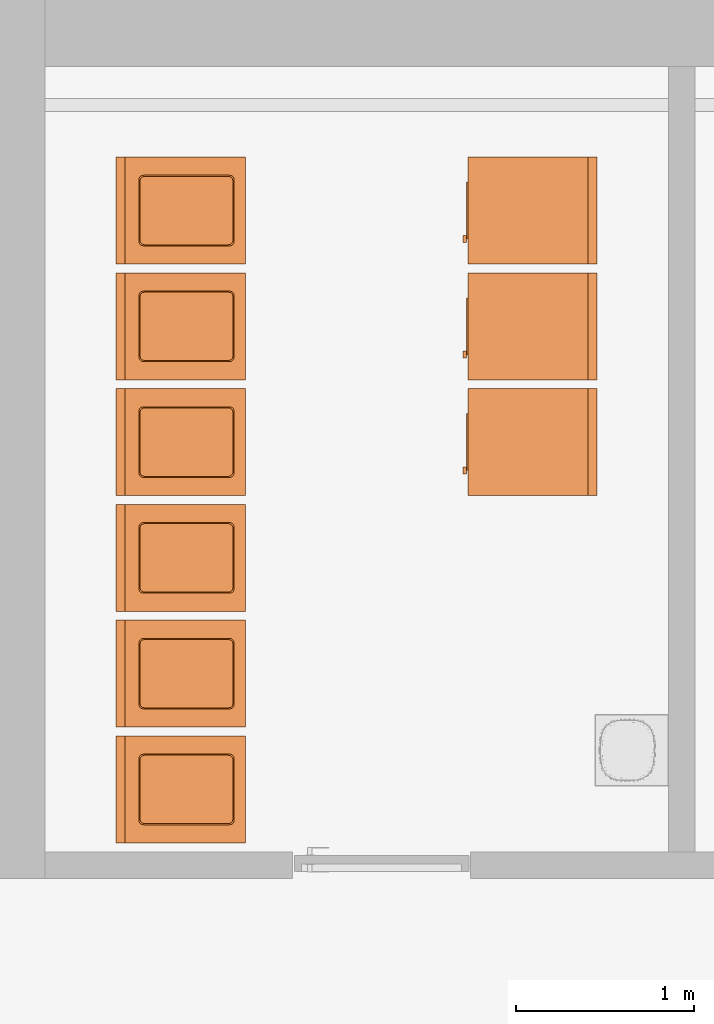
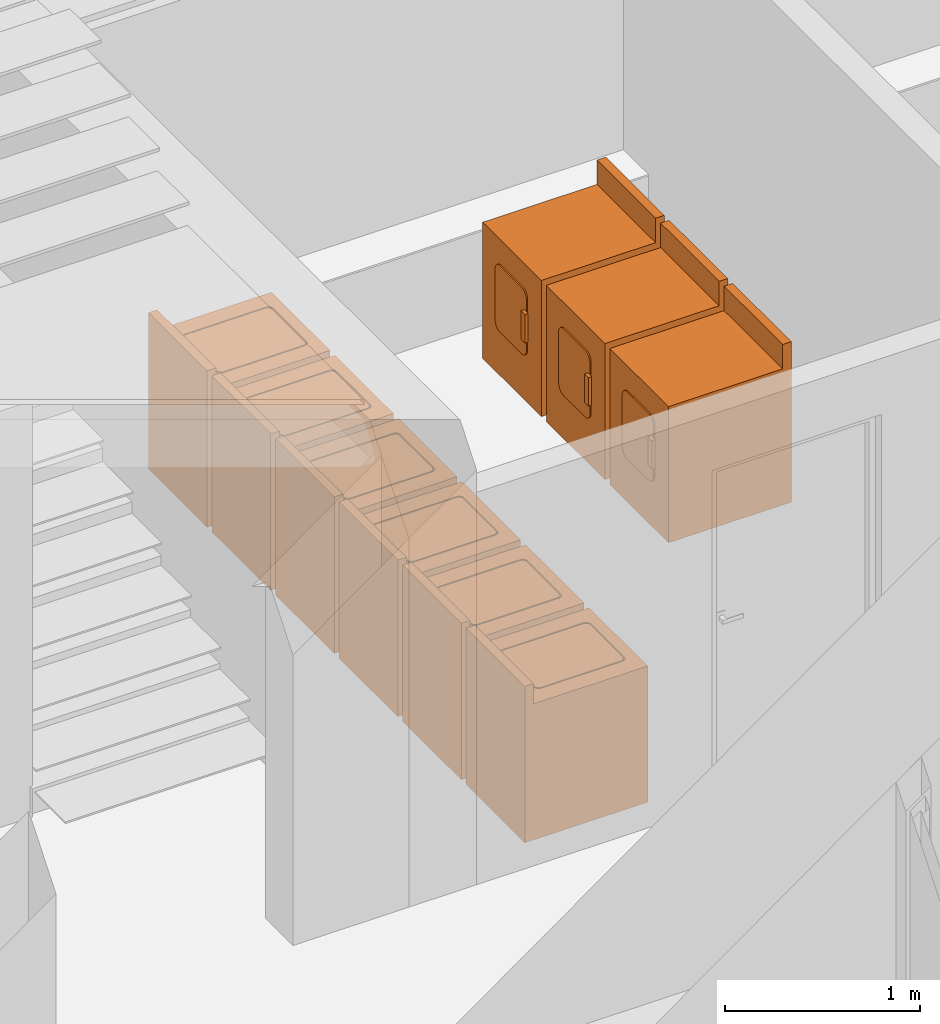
# One storey, part 22 of 23: 9 proxies.
"""IFC2X3 building model written with IfcOpenShell, lengths in millimetres."""

from ifc_helpers import new_model, entity, si_unit, converted_unit, derived_unit, direction, frame, frame_2d, origin, origin_2d_with_axis, place, context, subcontext, project, spatial, polyline, circle_curve, parameter, trimmed, segment, composite_curve, rectangle, outline, extrude, faceted_brep, source, transform, mapped, material, type_object, type_shapes, element, save


model = new_model("IFC2X3")

# Units and contexts
model_context = context("Model", 3, precision=0.01, world=origin(), true_north=direction((6.12303176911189e-17, 1.0)))
body_context = subcontext(model_context, "Body", "Model", "MODEL_VIEW")
ifc_project = project(units=[si_unit("LENGTHUNIT", "METRE", prefix="MILLI"), si_unit("AREAUNIT", "SQUARE_METRE"), si_unit("VOLUMEUNIT", "CUBIC_METRE"), converted_unit("PLANEANGLEUNIT", "DEGREE", entity("IfcRatioMeasure", 0.0174532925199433), si_unit("PLANEANGLEUNIT", "RADIAN"), dimensions=[0, 0, 0, 0, 0, 0, 0]), si_unit("MASSUNIT", "GRAM", prefix="KILO"), derived_unit("MASSDENSITYUNIT", [(si_unit("MASSUNIT", "GRAM", prefix="KILO"), 1), (si_unit("LENGTHUNIT", "METRE"), -3)]), si_unit("TIMEUNIT", "SECOND"), si_unit("FREQUENCYUNIT", "HERTZ"), si_unit("THERMODYNAMICTEMPERATUREUNIT", "DEGREE_CELSIUS"), derived_unit("THERMALTRANSMITTANCEUNIT", [(si_unit("MASSUNIT", "GRAM", prefix="KILO"), 1), (si_unit("THERMODYNAMICTEMPERATUREUNIT", "KELVIN"), -1), (si_unit("TIMEUNIT", "SECOND"), -3)]), derived_unit("VOLUMETRICFLOWRATEUNIT", [(si_unit("LENGTHUNIT", "METRE"), 3), (si_unit("TIMEUNIT", "SECOND"), -1)]), si_unit("ELECTRICCURRENTUNIT", "AMPERE"), si_unit("ELECTRICVOLTAGEUNIT", "VOLT"), si_unit("POWERUNIT", "WATT"), si_unit("FORCEUNIT", "NEWTON", prefix="KILO"), si_unit("ILLUMINANCEUNIT", "LUX"), si_unit("LUMINOUSFLUXUNIT", "LUMEN"), si_unit("LUMINOUSINTENSITYUNIT", "CANDELA"), derived_unit("USERDEFINED", [(si_unit("MASSUNIT", "GRAM", prefix="KILO"), -1), (si_unit("LENGTHUNIT", "METRE"), -2), (si_unit("TIMEUNIT", "SECOND"), 3), (si_unit("LUMINOUSFLUXUNIT", "LUMEN"), 1)]), derived_unit("LINEARVELOCITYUNIT", [(si_unit("LENGTHUNIT", "METRE"), 1), (si_unit("TIMEUNIT", "SECOND"), -1)]), si_unit("PRESSUREUNIT", "PASCAL"), derived_unit("USERDEFINED", [(si_unit("LENGTHUNIT", "METRE"), -2), (si_unit("MASSUNIT", "GRAM", prefix="KILO"), 1), (si_unit("TIMEUNIT", "SECOND"), -2)]), derived_unit("LINEARFORCEUNIT", [(si_unit("MASSUNIT", "GRAM", prefix="KILO"), 1), (si_unit("LENGTHUNIT", "METRE"), 1), (si_unit("TIMEUNIT", "SECOND"), -2), (si_unit("LENGTHUNIT", "METRE"), -1)]), derived_unit("PLANARFORCEUNIT", [(si_unit("MASSUNIT", "GRAM", prefix="KILO"), 1), (si_unit("LENGTHUNIT", "METRE"), 1), (si_unit("TIMEUNIT", "SECOND"), -2), (si_unit("LENGTHUNIT", "METRE"), -2)])], contexts=[model_context])

# Site, building, storey, space
site_placement = place(None, origin())
site = spatial("IfcSite", under=ifc_project, at=site_placement, Name="Default", CompositionType="ELEMENT")
building_placement = place(site_placement, origin())
building = spatial("IfcBuilding", under=site, at=building_placement, Name="SMA ARH", CompositionType="ELEMENT")
storey_placement = place(building_placement, frame((0.0, 0.0, -2800.0)))
storey = spatial("IfcBuildingStorey", under=building, at=storey_placement, Name="0 Sokkel", CompositionType="ELEMENT", Elevation=-2800.0)
space_placement = place(storey_placement, origin())
space = spatial("IfcSpace", under=storey, at=space_placement, Name="0-16", CompositionType="ELEMENT", InteriorOrExteriorSpace="INTERNAL")

# Proxies
ifc_material_1 = material(Name="Metal - Paint Finish - Ivory, Matte")
building_element_proxy_type_1 = type_object("IfcBuildingElementProxyType", Name="M_Washer:595x745x850", PredefinedType="NOTDEFINED", material=ifc_material_1)
shared_shape_1 = source(origin(), body_context, "Body", "Brep", [
    faceted_brep([(492.05000000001, 567.249999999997, 824.599999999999), (492.05000000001, 95.2499999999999, 824.599999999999), (490.085303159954, 87.91765157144, 824.599999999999), (488.647045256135, 82.5499999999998, 824.599999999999), (483.998522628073, 77.9014773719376, 824.599999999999), (479.350000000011, 73.252954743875, 824.599999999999), (473.0, 71.5514773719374, 824.599999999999), (466.65000000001, 69.8499999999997, 824.599999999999), (133.35, 69.8499999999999, 824.599999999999), (126.017651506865, 71.8146968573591, 824.599999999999), (120.65, 73.2529547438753, 824.599999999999), (116.001477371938, 77.9014773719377, 824.599999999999), (111.352954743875, 82.5500000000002, 824.599999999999), (109.651477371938, 88.9000000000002, 824.599999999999), (107.95, 95.2500000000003, 824.599999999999), (107.95, 567.249999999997, 824.599999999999), (109.914696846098, 574.582348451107, 824.599999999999), (111.352954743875, 579.949999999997, 824.599999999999), (116.001477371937, 584.598522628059, 824.599999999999), (120.65, 589.247045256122, 824.599999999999), (127.0, 590.948522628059, 824.599999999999), (133.35, 592.649999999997, 824.599999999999), (466.65000000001, 592.649999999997, 824.599999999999), (473.982348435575, 590.685303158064, 824.599999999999), (479.35000000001, 589.247045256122, 824.599999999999), (483.998522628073, 584.598522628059, 824.599999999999), (488.647045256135, 579.949999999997, 824.599999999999), (490.348522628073, 573.599999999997, 824.599999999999), (492.05000000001, 95.2499999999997, 850.0), (492.05000000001, 567.249999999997, 850.0), (490.085303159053, 574.582348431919, 850.0), (488.647045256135, 579.949999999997, 850.0), (483.998522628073, 584.598522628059, 850.0), (479.35000000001, 589.247045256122, 850.0), (473.0, 590.948522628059, 850.0), (466.65000000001, 592.649999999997, 850.0), (133.35, 592.649999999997, 850.0), (127.0, 590.948522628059, 850.0), (120.65, 589.247045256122, 850.0), (116.001477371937, 584.598522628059, 850.0), (111.352954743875, 579.949999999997, 850.0), (109.651477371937, 573.599999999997, 850.0), (107.95, 567.249999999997, 850.0), (107.95, 95.2500000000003, 850.0), (109.651477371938, 88.9000000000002, 850.0), (111.352954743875, 82.5500000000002, 850.0), (116.001477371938, 77.9014773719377, 850.0), (120.65, 73.2529547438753, 850.0), (127.0, 71.5514773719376, 850.0), (133.35, 69.8499999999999, 850.0), (466.65000000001, 69.8499999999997, 850.0), (473.982348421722, 71.8146968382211, 850.0), (479.350000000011, 73.252954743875, 850.0), (483.998522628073, 77.9014773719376, 850.0), (488.647045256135, 82.5499999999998, 850.0), (490.348522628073, 88.9, 850.0)], [[[0, 1, 2, 3, 4, 5, 6, 7, 8, 9, 10, 11, 12, 13, 14, 15, 16, 17, 18, 19, 20, 21, 22, 23, 24, 25, 26, 27]], [[28, 29, 30, 31, 32, 33, 34, 35, 36, 37, 38, 39, 40, 41, 42, 43, 44, 45, 46, 47, 48, 49, 50, 51, 52, 53, 54, 55]], [[40, 17, 16, 15, 42, 41]], [[19, 18, 17, 40, 39, 38]], [[21, 20, 19, 38, 37, 36]], [[22, 21, 36, 35]], [[33, 24, 23, 22, 35, 34]], [[26, 25, 24, 33, 32, 31]], [[26, 31, 30, 29, 0, 27]], [[1, 0, 29, 28]], [[54, 3, 2, 1, 28, 55]], [[5, 4, 3, 54, 53, 52]], [[5, 52, 51, 50, 7, 6]], [[8, 7, 50, 49]], [[47, 10, 9, 8, 49, 48]], [[46, 45, 12, 11, 10, 47]], [[43, 14, 13, 12, 45, 44]], [[15, 14, 43, 42]]]),
    faceted_brep([(0.0, 675.2, 850.0), (127.0, 598.818630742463, 850.0), (473.0, 598.818630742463, 850.0), (600.0, 675.2, 850.0), (120.649999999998, 597.117153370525, 850.0), (114.299999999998, 595.415675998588, 850.0), (109.651477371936, 590.767153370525, 850.0), (105.002954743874, 586.118630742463, 850.0), (103.564696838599, 580.750979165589, 850.0), (101.599999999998, 573.418630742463, 850.0), (0.0, 0.0, 850.0), (101.599999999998, 88.9000000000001, 850.0), (103.301477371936, 82.5500000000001, 850.0), (105.002954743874, 76.1999999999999, 850.0), (109.651477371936, 71.5514773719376, 850.0), (114.299999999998, 66.9029547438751, 850.0), (119.667651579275, 65.4646968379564, 850.0), (127.0, 63.4999999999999, 850.0), (473.0, 63.4999999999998, 850.0), (600.0, 0.0, 850.0), (498.399999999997, 573.418630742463, 850.0), (498.399999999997, 88.8999999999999, 850.0), (496.435303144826, 81.5676515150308, 850.0), (494.997045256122, 76.1999999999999, 850.0), (490.348522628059, 71.5514773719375, 850.0), (479.349999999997, 65.2014773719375, 850.0), (485.699999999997, 66.9029547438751, 850.0), (480.33234843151, 596.853933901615, 850.0), (485.699999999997, 595.415675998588, 850.0), (490.348522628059, 590.767153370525, 850.0), (494.997045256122, 586.118630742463, 850.0), (496.698522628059, 579.768630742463, 850.0), (600.0, 0.0, 0.0), (0.0, 0.0, 0.0), (0.0, 726.0, 0.0), (600.0, 726.0, 0.0), (0.0, 675.2, 977.0), (0.0, 726.0, 977.0), (600.0, 726.0, 977.0), (600.0, 675.2, 977.0), (127.0, 598.818630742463, 799.199999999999), (119.667651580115, 596.853933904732, 799.199999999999), (114.299999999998, 595.415675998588, 799.199999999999), (109.651477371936, 590.767153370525, 799.199999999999), (105.002954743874, 586.118630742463, 799.199999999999), (103.301477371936, 579.768630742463, 799.199999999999), (101.599999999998, 573.418630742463, 799.199999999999), (101.599999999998, 88.9, 799.199999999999), (103.564696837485, 81.5676515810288, 799.199999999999), (105.002954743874, 76.1999999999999, 799.199999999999), (109.651477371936, 71.5514773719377, 799.199999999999), (114.299999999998, 66.9029547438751, 799.199999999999), (120.649999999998, 65.2014773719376, 799.199999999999), (127.0, 63.4999999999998, 799.199999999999), (473.0, 63.4999999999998, 799.199999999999), (480.332349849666, 65.4646972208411, 799.199999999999), (485.699999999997, 66.902954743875, 799.199999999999), (490.348522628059, 71.5514773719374, 799.199999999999), (494.997045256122, 76.1999999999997, 799.199999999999), (496.698522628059, 82.5499999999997, 799.199999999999), (498.399999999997, 88.8999999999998, 799.199999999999), (498.399999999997, 573.418630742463, 799.199999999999), (496.435303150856, 580.750979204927, 799.199999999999), (494.997045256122, 586.118630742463, 799.199999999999), (490.348522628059, 590.767153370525, 799.199999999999), (485.699999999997, 595.415675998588, 799.199999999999), (479.349999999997, 597.117153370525, 799.199999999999), (473.0, 598.818630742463, 799.199999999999)], [[[0, 1, 2]], [[2, 3, 0]], [[0, 4, 1]], [[0, 5, 4]], [[0, 6, 5]], [[0, 7, 6]], [[0, 8, 7]], [[0, 9, 8]], [[0, 10, 9]], [[11, 9, 10]], [[10, 12, 11]], [[10, 13, 12]], [[10, 14, 13]], [[10, 15, 14]], [[10, 16, 15]], [[10, 17, 16]], [[17, 10, 18]], [[19, 18, 10]], [[3, 20, 19]], [[21, 19, 20]], [[19, 21, 22]], [[19, 22, 23]], [[19, 23, 24]], [[19, 25, 18]], [[19, 26, 25]], [[19, 24, 26]], [[3, 2, 27]], [[3, 27, 28]], [[3, 28, 29]], [[3, 29, 30]], [[3, 30, 31]], [[3, 31, 20]], [[32, 33, 34, 35]], [[0, 36, 37, 34, 33, 10]], [[19, 10, 33, 32]], [[3, 19, 32, 35, 38, 39]], [[37, 38, 35, 34]], [[36, 0, 3, 39]], [[37, 36, 39, 38]], [[40, 41, 42, 43, 44, 45, 46, 47, 48, 49, 50, 51, 52, 53, 54, 55, 56, 57, 58, 59, 60, 61, 62, 63, 64, 65, 66, 67]], [[67, 2, 1, 40]], [[42, 41, 40, 1, 4, 5]], [[44, 43, 42, 5, 6, 7]], [[9, 46, 45, 44, 7, 8]], [[46, 9, 11, 47]], [[49, 48, 47, 11, 12, 13]], [[51, 50, 49, 13, 14, 15]], [[17, 53, 52, 51, 15, 16]], [[53, 17, 18, 54]], [[56, 55, 54, 18, 25, 26]], [[58, 57, 56, 26, 24, 23]], [[21, 60, 59, 58, 23, 22]], [[60, 21, 20, 61]], [[63, 62, 61, 20, 31, 30]], [[65, 64, 63, 30, 29, 28]], [[2, 67, 66, 65, 28, 27]]]),
])
type_shapes(building_element_proxy_type_1, [shared_shape_1])
for number, where, z_axis, x_axis, name in (
    (1, (13126.0, 8075.0, 0.0), (0.0, 0.0, 1.0), (0.0, 1.0, 0.0), "M_Washer:595x745x850"),
    (2, (13126.0, 8725.0, 0.0), (0.0, 0.0, 1.0), (0.0, 1.0, 0.0), "M_Washer:595x745x850"),
    (3, (13126.0, 9375.0, 0.0), (0.0, 0.0, 1.0), (0.0, 1.0, 0.0), "M_Washer:595x745x850"),
    (4, (13126.0, 10025.0, 0.0), (0.0, 0.0, 1.0), (0.0, 1.0, 0.0), "M_Washer:595x745x850"),
    (5, (13126.0, 10675.0, 0.0), (0.0, 0.0, 1.0), (0.0, 1.0, 0.0), "M_Washer:595x745x850"),
    (6, (13126.0, 11325.0, 0.0), (0.0, 0.0, 1.0), (0.0, 1.0, 0.0), "M_Washer:595x745x850"),
):
    element("IfcBuildingElementProxy", number, at=place(space_placement, frame(where, z_axis=z_axis, x_axis=x_axis)), inside=space, type_object=building_element_proxy_type_1, material=ifc_material_1, Name=name, ObjectType="M_Washer:595x745x850", context=body_context, shape_type="MappedRepresentation", body=[
        mapped(shared_shape_1, transform((0.0, 0.0, 0.0), scale=1.0)),
    ])
ifc_material_2 = material(Name="Metal - Paint Finish - Ivory, Glossy")
building_element_proxy_type_2 = type_object("IfcBuildingElementProxyType", Name="M_Dryer:595x745x850", PredefinedType="NOTDEFINED", material=ifc_material_2)
shared_shape_2 = source(origin(), body_context, "Body", "SweptSolid", [
    extrude(rectangle(XDim=40.0, YDim=19.9, at=origin_2d_with_axis()), frame((177.490064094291, 20.7089962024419, 395.223707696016), z_axis=(0.0, 0.0, 1.0), x_axis=(-1.0, 0.0, 0.0)), (0.0, 0.0, 1.0), 177.8),
    extrude(outline(composite_curve([segment(trimmed(circle_curve(frame_2d((-158.6, -110.0), x_axis=(1.0, 0.0)), 50.0000000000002), [parameter(180.0)], [parameter(270.0)], True, "PARAMETER"), True, "CONTINUOUS"), segment(polyline([(-158.600000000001, -160.0), (158.600000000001, -160.0)]), True, "CONTINUOUS"), segment(trimmed(circle_curve(frame_2d((158.6, -110.0), x_axis=(1.0, 0.0)), 50.0), [parameter(270.0)], [parameter(4.07110999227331e-13)], True, "PARAMETER"), True, "CONTINUOUS"), segment(polyline([(208.6, -110.0), (208.6, 110.0)]), True, "CONTINUOUS"), segment(trimmed(circle_curve(frame_2d((158.6, 110.0), x_axis=(1.0, 0.0)), 50.0), [parameter(4.07110999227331e-13)], [parameter(90.0000000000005)], True, "PARAMETER"), True, "CONTINUOUS"), segment(polyline([(158.6, 160.0), (-158.600000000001, 160.0)]), True, "CONTINUOUS"), segment(trimmed(circle_curve(frame_2d((-158.600000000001, 110.0), x_axis=(1.0, 0.0)), 50.0), [parameter(90.0000000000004)], [parameter(180.0)], True, "PARAMETER"), True, "CONTINUOUS"), segment(polyline([(-208.600000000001, 110.0), (-208.600000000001, -110.0)]), True, "CONTINUOUS")], self_intersect=False)), frame((336.087456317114, 2.83899620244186, 488.525024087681), z_axis=(0.0, 1.0, 0.0), x_axis=(0.0, 0.0, -1.0)), (0.0, 0.0, 1.0), 7.92),
    extrude(outline(polyline([(-258.93333333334, -617.466666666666), (467.066666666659, -617.466666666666), (467.066666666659, 232.533333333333), (-208.133333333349, 232.533333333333), (-208.133333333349, 384.933333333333), (-258.933333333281, 384.933333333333), (-258.93333333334, -617.466666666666)])), frame((36.0874563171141, -464.227670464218, 617.466666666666), z_axis=(1.0, 0.0, 0.0), x_axis=(0.0, 1.0, 0.0)), (0.0, 0.0, 1.0), 600.000000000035),
])
type_shapes(building_element_proxy_type_2, [shared_shape_2])
for number, where, z_axis, x_axis, name in (
    (7, (14376.8389962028, 11288.9125436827, 0.0), (0.0, 0.0, 1.0), (0.0, 1.0, 0.0), "M_Dryer:595x745x850"),
    (8, (14376.8389962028, 10638.9125436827, 0.0), (0.0, 0.0, 1.0), (0.0, 1.0, 0.0), "M_Dryer:595x745x850"),
    (9, (14376.8389962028, 9988.91254368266, 0.0), (0.0, 0.0, 1.0), (0.0, 1.0, 0.0), "M_Dryer:595x745x850"),
):
    element("IfcBuildingElementProxy", number, at=place(space_placement, frame(where, z_axis=z_axis, x_axis=x_axis)), inside=space, type_object=building_element_proxy_type_2, material=ifc_material_2, Name=name, ObjectType="M_Dryer:595x745x850", context=body_context, shape_type="MappedRepresentation", body=[
        mapped(shared_shape_2, transform((0.0, 0.0, 0.0), scale=1.0)),
    ])

save(model, "model.ifc")
